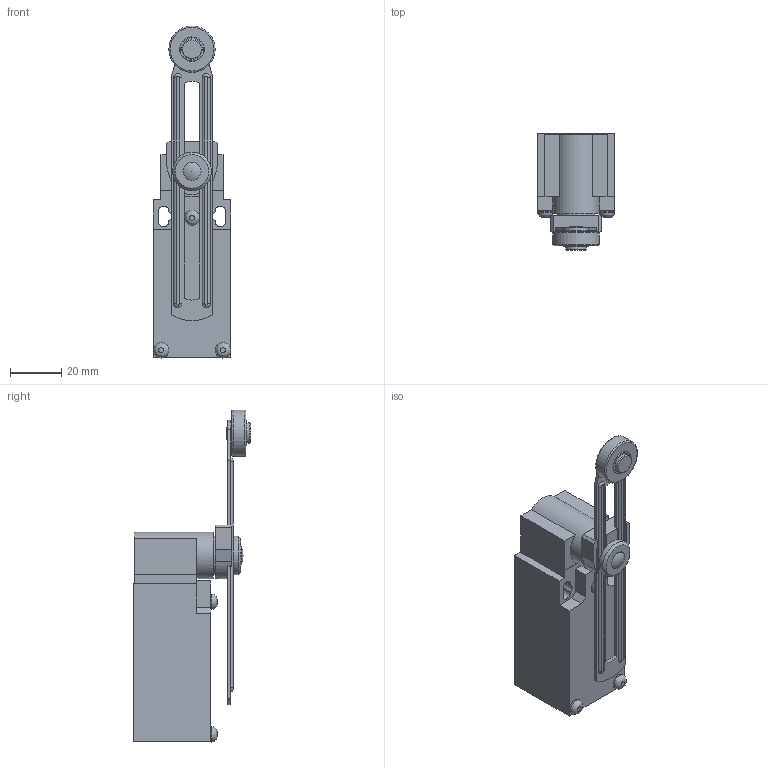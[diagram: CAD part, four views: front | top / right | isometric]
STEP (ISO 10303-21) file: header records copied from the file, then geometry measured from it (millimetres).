
FILE_DESCRIPTION((''),'2;1');
FILE_NAME('D:\Documenti_D\Corrispondenza\Comepi\Catalogo da fare\Modelli Nov 2011\AM\STEP\AM1-F51.iam.stp','2011-11-17T11:37:05',(''),(''),'Autodesk Inventor 2010','Autodesk Inventor 2010','');
FILE_SCHEMA(('AUTOMOTIVE_DESIGN { 1 0 10303 214 1 1 1 1 }'));
Length unit declared in the file: millimetre
Products named in the file (6): AM1-F51; AM1; T51.iam; T51_1; T51_2; T51_3
Assembly tree (5 placements, depth 3):
  AM1-F51
    AM1
    T51.iam
      T51_1
      T51_2
      T51_3
Bounding box: 30.3 x 45.5 x 129 mm (x, y, z)
Volume: 67269 mm3; surface area: 20022 mm2
Topology: 5 solids, 5 shells, 123 faces, 290 edges, 189 vertices
Faces by surface type: plane 79, cylinder 27, bspline 7, torus 5, cone 4, sphere 1
Full cylindrical faces by diameter (mm): 6 x5, 7 x1, 8 x1, 15 x2, 18 x2, 20.4 x1
Entity records: 3834 total; most frequent: CARTESIAN_POINT 882, DIRECTION 596, ORIENTED_EDGE 516, EDGE_CURVE 258, AXIS2_PLACEMENT_3D 211, VERTEX_POINT 182, VECTOR 174, LINE 174
